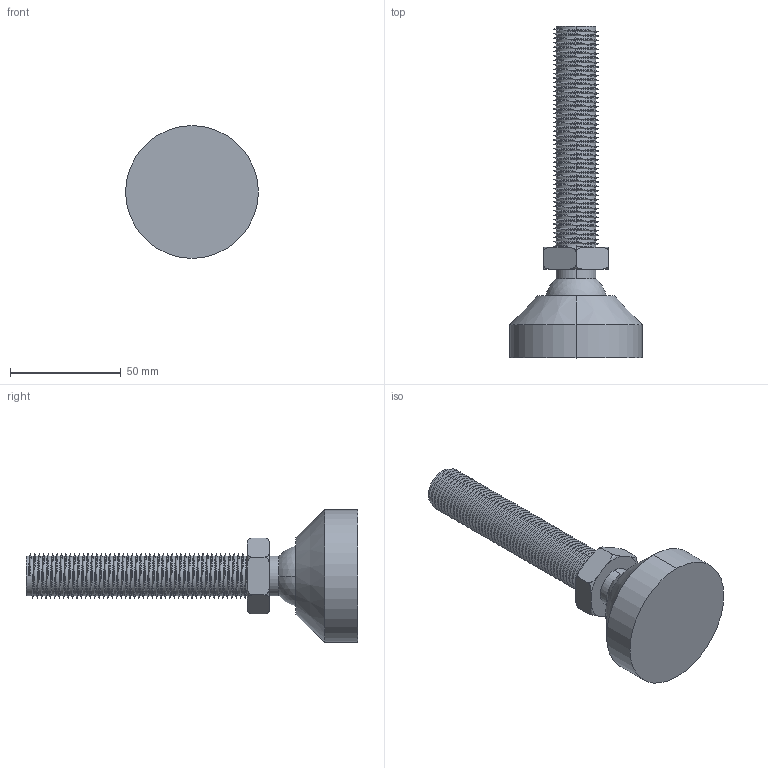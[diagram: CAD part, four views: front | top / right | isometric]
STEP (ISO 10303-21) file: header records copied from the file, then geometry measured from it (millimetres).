
FILE_DESCRIPTION (( 'STEP AP203' ), '1' );
FILE_NAME ('C6016100.STEP', '2018-01-17T03:55:23', ( '' ), ( '' ), 'SwSTEP 2.0', 'SolidWorks 2014', '' );
FILE_SCHEMA (( 'CONFIG_CONTROL_DESIGN' ));
Length unit declared in the file: millimetre
Products named in the file (3): 底座C60; C6016100; 螺桿M16XL100XP2C
Assembly tree (2 placements, depth 2):
  C6016100
    底座C60
    螺桿M16XL100XP2C
Bounding box: 60 x 150 x 60 mm (x, y, z)
Volume: 104826.2 mm3; surface area: 24588.2 mm2
Topology: 2 solids, 2 shells, 138 faces, 401 edges, 266 vertices
Faces by surface type: cylinder 104, torus 14, plane 12, sphere 4, cone 2, bspline 2
Entity records: 11846 total; most frequent: CARTESIAN_POINT 8581, ORIENTED_EDGE 782, DIRECTION 484, EDGE_CURVE 391, VERTEX_POINT 260, AXIS2_PLACEMENT_3D 179, EDGE_LOOP 141, FACE_OUTER_BOUND 138
